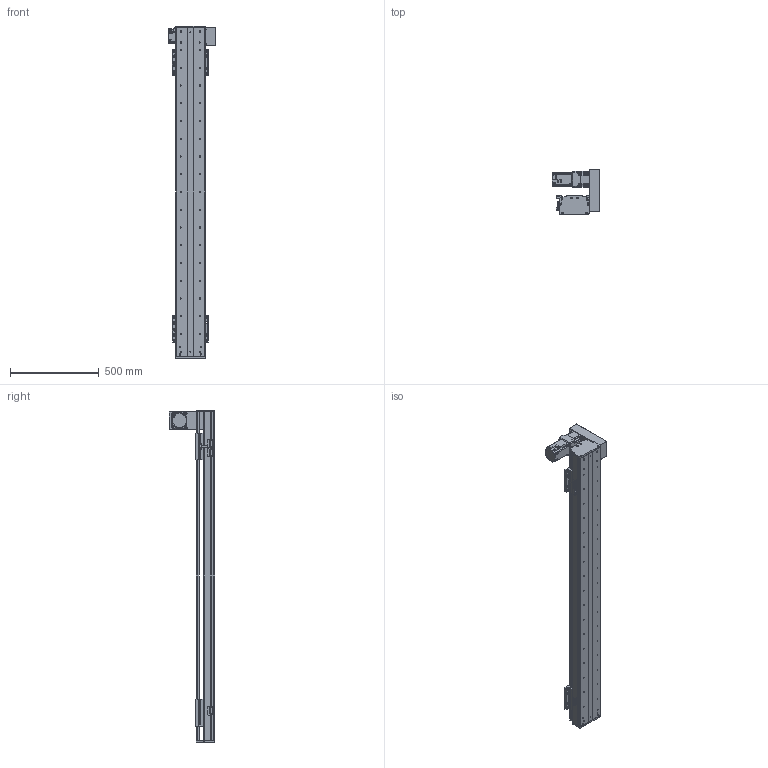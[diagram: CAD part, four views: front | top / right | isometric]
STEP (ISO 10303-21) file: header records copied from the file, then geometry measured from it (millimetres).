
FILE_DESCRIPTION(/* description */ (''),/* implementation_level */ '2;1');
FILE_NAME(/* name */ 'C:\Users\PC\Desktop\3D도면\STEP\새 폴더\DSB165-UR7G-W1500-L.stp',/* time_stamp */ '2018-06-25T15:19:57+09:00',/* author */ ('PC'),/* organization */ (''),/* preprocessor_version */ 'ST-DEVELOPER v16.5',/* originating_system */ 'Autodesk Inventor 2017',/* authorisation */ '');
FILE_SCHEMA (('AUTOMOTIVE_DESIGN { 1 0 10303 214 3 1 1 }','TECHNICAL_DATA_PACKAGING'));
Length unit declared in the file: millimetre
Products named in the file (12): DSB165-UL7G-W1500-R_MIR; DSB165-BASE-L_MIR; hg-kr73__MIR; ab0901-p0401300102_MIR; 11-DSB165 BELT COVER_MIR; 12-DSB165-REAR COVER_MIR; 14-DSB165-FRONT COVER_MIR; DSB165-UP COVER_MIR; DSR165-SENSOR DOG_MIR; pm-y65_step_MIR; SENSOR BRACKET(EE-SX674A)_MIR; DSB165-TABLE(MSB20S)_MIR
Assembly tree (16 placements, depth 2):
  DSB165-UL7G-W1500-R_MIR
    DSB165-BASE-L_MIR
    hg-kr73__MIR
    ab0901-p0401300102_MIR
    11-DSB165 BELT COVER_MIR
    12-DSB165-REAR COVER_MIR
    14-DSB165-FRONT COVER_MIR
    DSB165-UP COVER_MIR
    DSR165-SENSOR DOG_MIR
    pm-y65_step_MIR  x3
    SENSOR BRACKET(EE-SX674A)_MIR  x3
    DSB165-TABLE(MSB20S)_MIR  x2
Bounding box: 270 x 254 x 1870 mm (x, y, z)
Volume: 11152549.5 mm3; surface area: 2595848.7 mm2
Topology: 17 solids, 17 shells, 1689 faces, 4534 edges, 2984 vertices
Faces by surface type: plane 921, cylinder 630, cone 126, sphere 8, torus 4
Full cylindrical faces by diameter (mm): 2.459 x20, 3.5 x6, 4.134 x42, 4.5 x18, 5 x27, 5.5 x36, 5.9 x4, 6 x4, 6.6 x14, 6.647 x54, 6.8 x1, 7 x4, 7.6 x4, 8.4 x1, 8.5 x24, 8.7 x1, 9.5 x32, 11 x6, 14 x16, 19 x1, 22 x1, 24 x1, 25 x1, 28 x1, 67 x1, 70 x2, 80 x1
Entity records: 36592 total; most frequent: DIRECTION 6346, CARTESIAN_POINT 6135, ORIENTED_EDGE 5578, EDGE_CURVE 2789, AXIS2_PLACEMENT_3D 2343, VERTEX_POINT 1994, EDGE_LOOP 1775, LINE 1660
